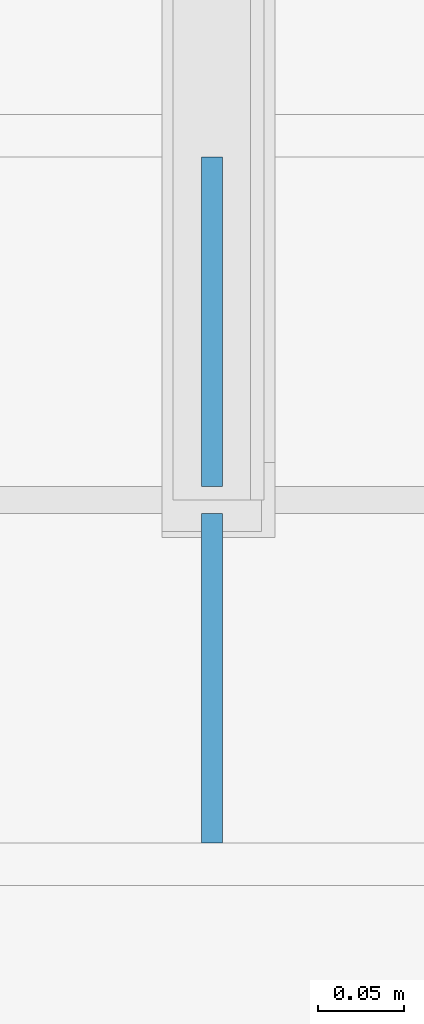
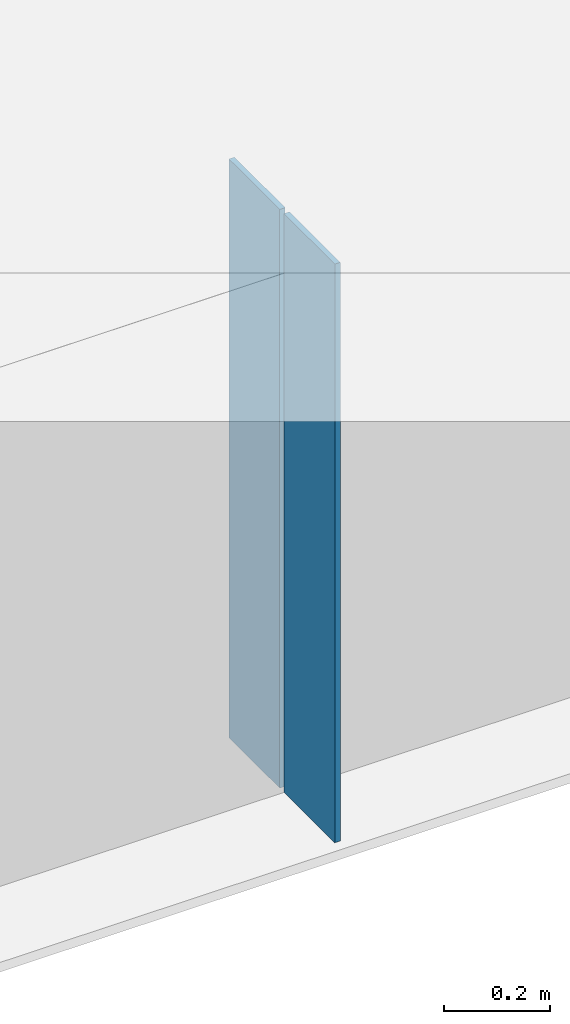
# One storey, part 4 of 10: 2 plates.
"""IFC4 building model written with IfcOpenShell, lengths in metres."""

from ifc_helpers import new_model, si_unit, frame, origin, origin_with_axes, origin_2d_with_axis, place, context, subcontext, project, spatial, rectangle, extrude, element, save


model = new_model("IFC4")

# Units and contexts
model_context = context("Model", 3, precision=1e-05, world=origin())
body_context = subcontext(model_context, "Body", "Model", "MODEL_VIEW")
ifc_project = project(units=[si_unit("LENGTHUNIT", "METRE"), si_unit("AREAUNIT", "SQUARE_METRE"), si_unit("VOLUMEUNIT", "CUBIC_METRE"), si_unit("PLANEANGLEUNIT", "RADIAN")], contexts=[model_context])

# Site, building, storey
site_placement = place(None, origin_with_axes())
site = spatial("IfcSite", under=ifc_project, at=site_placement, Name="Default Site")
building_placement = place(site_placement, origin_with_axes())
building = spatial("IfcBuilding", under=site, at=building_placement, Name="Bridge Structure")
storey_placement = place(building_placement, origin_with_axes())
storey = spatial("IfcBuildingStorey", under=building, at=storey_placement, Name="Superstructure")

# Plates
for number, where, z_axis, x_axis, name in (
    (1, (13.885, -4.021, -0.6675), (0.0, 0.0, 1.0), (1.0, 0.0, 0.0), "Intermediate Stiffener 1"),
    (2, (13.885, -4.229, -0.6675), (0.0, 0.0, 1.0), (1.0, 0.0, 0.0), "Intermediate Stiffener 1"),
):
    element("IfcPlate", number, at=place(storey_placement, frame(where, z_axis=z_axis, x_axis=x_axis)), inside=storey, Name=name, context=body_context, shape_type="SweptSolid", body=[
        extrude(rectangle(XDim=0.012, YDim=0.192, at=origin_2d_with_axis()), origin_with_axes(), (0.0, 0.0, 1.0), 1.335),
    ])

save(model, "model.ifc")
